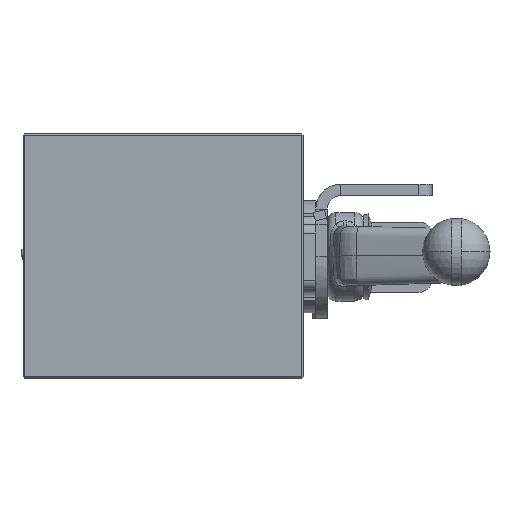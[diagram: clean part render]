
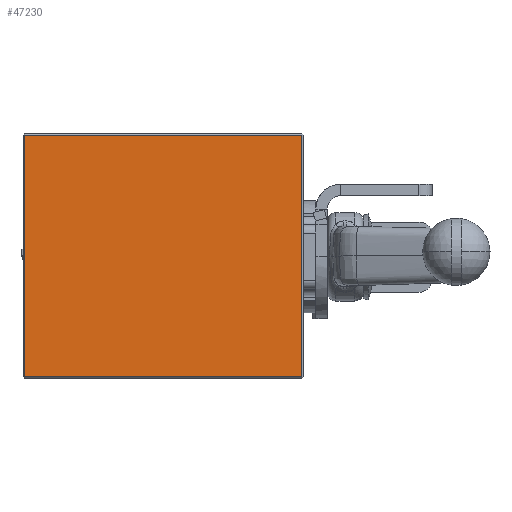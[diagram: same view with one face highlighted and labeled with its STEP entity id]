
A CAD part, front view. The second image highlights one B-rep face of the part: STEP entity #47230.
In plain terms, the highlighted planar face has unit normal (0, -1, 0).
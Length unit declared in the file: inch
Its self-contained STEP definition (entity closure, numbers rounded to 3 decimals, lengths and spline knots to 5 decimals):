
#83 = PLANE ( 'NONE',  #45561 ) ;
#2047 = DIRECTION ( 'NONE',  ( -1., 0., 0. ) ) ;
#6130 = EDGE_LOOP ( 'NONE', ( #32337, #24140, #37075, #11433 ) ) ;
#7512 = VERTEX_POINT ( 'NONE', #11522 ) ;
#9618 = DIRECTION ( 'NONE',  ( 0., 0., -1. ) ) ;
#11423 = DIRECTION ( 'NONE',  ( 1., 0., 0. ) ) ;
#11433 = ORIENTED_EDGE ( 'NONE', *, *, #16601, .T. ) ;
#11522 = CARTESIAN_POINT ( 'NONE',  ( -0.24694, -0.05331, 1.2276 ) ) ;
#15297 = VECTOR ( 'NONE', #34825, 39.37008 ) ;
#16601 = EDGE_CURVE ( 'NONE', #7512, #51848, #20596, .T. ) ;
#17617 = FACE_OUTER_BOUND ( 'NONE', #6130, .T. ) ;
#20088 = CARTESIAN_POINT ( 'NONE',  ( -0.26694, -0.05331, 4.6726 ) ) ;
#20596 = LINE ( 'NONE', #58172, #49458 ) ;
#24140 = ORIENTED_EDGE ( 'NONE', *, *, #30070, .T. ) ;
#25255 = LINE ( 'NONE', #20088, #50350 ) ;
#26257 = CARTESIAN_POINT ( 'NONE',  ( 3.69806, -0.05331, 4.6926 ) ) ;
#30070 = EDGE_CURVE ( 'NONE', #51495, #43472, #25255, .T. ) ;
#30857 = LINE ( 'NONE', #26257, #15297 ) ;
#31472 = CARTESIAN_POINT ( 'NONE',  ( -0.24694, -0.05331, 4.6726 ) ) ;
#31728 = VECTOR ( 'NONE', #9618, 39.37008 ) ;
#32337 = ORIENTED_EDGE ( 'NONE', *, *, #45886, .T. ) ;
#33443 = LINE ( 'NONE', #56047, #31728 ) ;
#34825 = DIRECTION ( 'NONE',  ( 0., 0., 1. ) ) ;
#34949 = EDGE_CURVE ( 'NONE', #43472, #7512, #33443, .T. ) ;
#35641 = CARTESIAN_POINT ( 'NONE',  ( -0.26694, -0.05331, 4.6926 ) ) ;
#37075 = ORIENTED_EDGE ( 'NONE', *, *, #34949, .T. ) ;
#37390 = CARTESIAN_POINT ( 'NONE',  ( 3.69806, -0.05331, 1.2276 ) ) ;
#43472 = VERTEX_POINT ( 'NONE', #31472 ) ;
#45561 = AXIS2_PLACEMENT_3D ( 'NONE', #35641, #49709, #46532 ) ;
#45886 = EDGE_CURVE ( 'NONE', #51848, #51495, #30857, .T. ) ;
#46532 = DIRECTION ( 'NONE',  ( 0., 0., 1. ) ) ;
#46629 = CARTESIAN_POINT ( 'NONE',  ( 3.69806, -0.05331, 4.6726 ) ) ;
#47230 = ADVANCED_FACE ( 'NONE', ( #17617 ), #83, .F. ) ;
#49458 = VECTOR ( 'NONE', #11423, 39.37008 ) ;
#49709 = DIRECTION ( 'NONE',  ( 0., 1., 0. ) ) ;
#50350 = VECTOR ( 'NONE', #2047, 39.37008 ) ;
#51495 = VERTEX_POINT ( 'NONE', #46629 ) ;
#51848 = VERTEX_POINT ( 'NONE', #37390 ) ;
#56047 = CARTESIAN_POINT ( 'NONE',  ( -0.24694, -0.05331, 4.6926 ) ) ;
#58172 = CARTESIAN_POINT ( 'NONE',  ( 3.71806, -0.05331, 1.2276 ) ) ;
